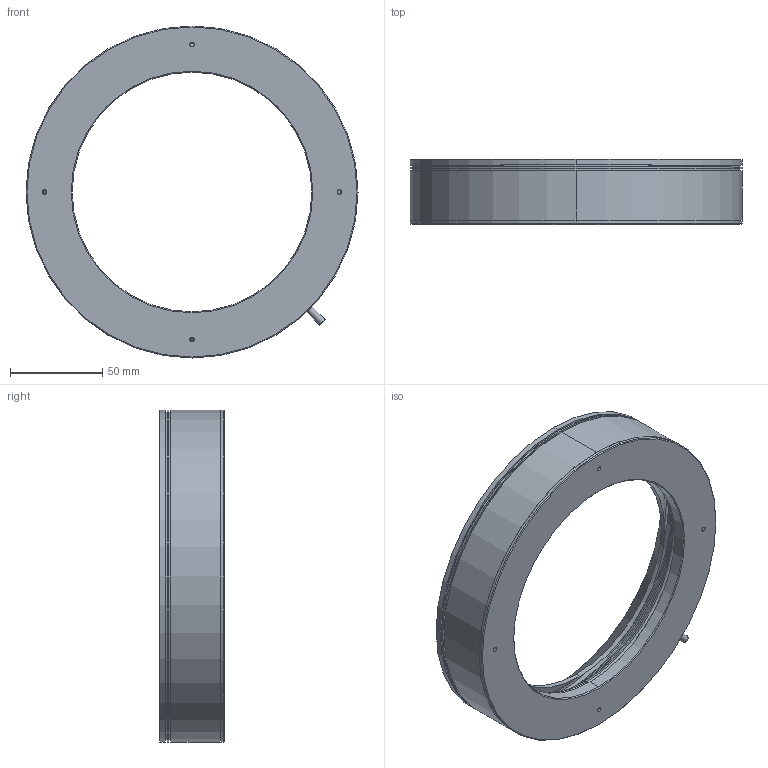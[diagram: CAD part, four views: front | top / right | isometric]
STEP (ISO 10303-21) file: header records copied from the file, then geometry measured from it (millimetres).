
FILE_DESCRIPTION (( 'STEP AP203' ), '1' );
FILE_NAME ('RI18045-W.STEP', '2021-10-11T02:09:31', ( 'Windows 蚚誧' ), ( 'Microsoft' ), 'SwSTEP 2.0', 'SolidWorks 2016', '' );
FILE_SCHEMA (( 'CONFIG_CONTROL_DESIGN' ));
Length unit declared in the file: millimetre
Products named in the file (1): RI18045-W
Bounding box: 180 x 35 x 180 mm (x, y, z)
Volume: 199166.3 mm3; surface area: 158601.1 mm2
Topology: 3 solids, 3 shells, 126 faces, 270 edges, 156 vertices
Faces by surface type: cone 52, cylinder 36, torus 24, plane 14
Entity records: 3661 total; most frequent: CARTESIAN_POINT 757, DIRECTION 664, ORIENTED_EDGE 540, AXIS2_PLACEMENT_3D 289, EDGE_CURVE 270, CIRCLE 162, VERTEX_POINT 156, EDGE_LOOP 146
